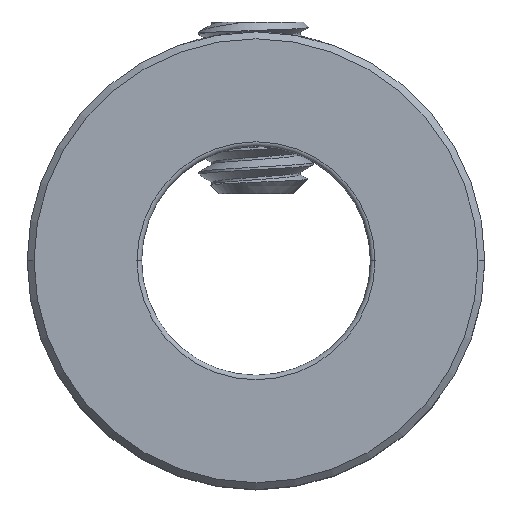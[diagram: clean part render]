
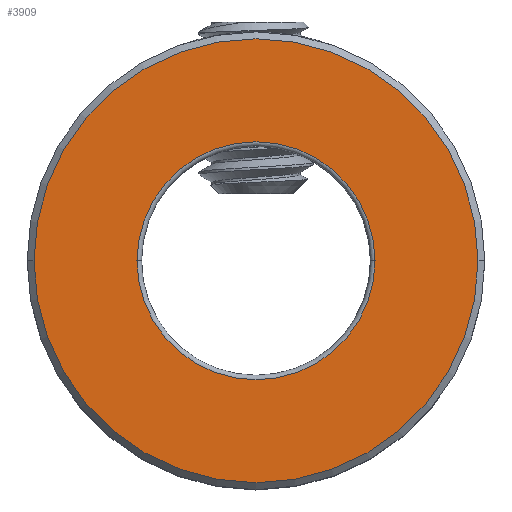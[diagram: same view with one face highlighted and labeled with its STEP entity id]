
A CAD part, top view. The second image highlights one B-rep face of the part: STEP entity #3909.
In plain terms, the highlighted planar face has unit normal (0, 0, 1).
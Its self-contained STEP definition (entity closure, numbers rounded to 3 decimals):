
#20 = DIRECTION ( 'NONE',  ( 0., 0., -1. ) ) ;
#55 = EDGE_LOOP ( 'NONE', ( #3405, #2956 ) ) ;
#248 = CARTESIAN_POINT ( 'NONE',  ( 7.76, 0., 4. ) ) ;
#256 = EDGE_CURVE ( 'NONE', #2200, #4123, #757, .T. ) ;
#357 = DIRECTION ( 'NONE',  ( 1., 0., 0. ) ) ;
#757 = CIRCLE ( 'NONE', #3699, 7.76 ) ;
#1063 = AXIS2_PLACEMENT_3D ( 'NONE', #4261, #1768, #2830 ) ;
#1085 = EDGE_CURVE ( 'NONE', #2602, #3573, #2783, .T. ) ;
#1182 = CARTESIAN_POINT ( 'NONE',  ( 0., 0., 4. ) ) ;
#1335 = EDGE_CURVE ( 'NONE', #4123, #2200, #4182, .T. ) ;
#1518 = DIRECTION ( 'NONE',  ( 1., 0., 0. ) ) ;
#1617 = CARTESIAN_POINT ( 'NONE',  ( 4.16, 0., 4. ) ) ;
#1698 = DIRECTION ( 'NONE',  ( 1., 0., 0. ) ) ;
#1768 = DIRECTION ( 'NONE',  ( 0., 0., 1. ) ) ;
#1969 = DIRECTION ( 'NONE',  ( 0., 0., 1. ) ) ;
#2126 = AXIS2_PLACEMENT_3D ( 'NONE', #3574, #20, #357 ) ;
#2200 = VERTEX_POINT ( 'NONE', #3487 ) ;
#2330 = CARTESIAN_POINT ( 'NONE',  ( 0., 0., 4. ) ) ;
#2382 = FACE_OUTER_BOUND ( 'NONE', #55, .T. ) ;
#2602 = VERTEX_POINT ( 'NONE', #3522 ) ;
#2621 = ORIENTED_EDGE ( 'NONE', *, *, #3370, .T. ) ;
#2783 = CIRCLE ( 'NONE', #4365, 4.16 ) ;
#2830 = DIRECTION ( 'NONE',  ( 1., 0., 0. ) ) ;
#2956 = ORIENTED_EDGE ( 'NONE', *, *, #1335, .T. ) ;
#3101 = DIRECTION ( 'NONE',  ( 1., 0., 0. ) ) ;
#3224 = FACE_BOUND ( 'NONE', #4521, .T. ) ;
#3370 = EDGE_CURVE ( 'NONE', #3573, #2602, #3896, .T. ) ;
#3405 = ORIENTED_EDGE ( 'NONE', *, *, #256, .T. ) ;
#3465 = ORIENTED_EDGE ( 'NONE', *, *, #1085, .T. ) ;
#3487 = CARTESIAN_POINT ( 'NONE',  ( -7.76, 0., 4. ) ) ;
#3522 = CARTESIAN_POINT ( 'NONE',  ( -4.16, 0., 4. ) ) ;
#3573 = VERTEX_POINT ( 'NONE', #1617 ) ;
#3574 = CARTESIAN_POINT ( 'NONE',  ( 0., 0., 4. ) ) ;
#3692 = DIRECTION ( 'NONE',  ( 0., 0., 1. ) ) ;
#3699 = AXIS2_PLACEMENT_3D ( 'NONE', #1182, #3692, #1518 ) ;
#3851 = CARTESIAN_POINT ( 'NONE',  ( 0., 0., 4. ) ) ;
#3896 = CIRCLE ( 'NONE', #2126, 4.16 ) ;
#3909 = ADVANCED_FACE ( 'NONE', ( #2382, #3224 ), #4530, .T. ) ;
#4123 = VERTEX_POINT ( 'NONE', #248 ) ;
#4182 = CIRCLE ( 'NONE', #1063, 7.76 ) ;
#4220 = AXIS2_PLACEMENT_3D ( 'NONE', #2330, #1969, #3101 ) ;
#4261 = CARTESIAN_POINT ( 'NONE',  ( 0., 0., 4. ) ) ;
#4365 = AXIS2_PLACEMENT_3D ( 'NONE', #3851, #4541, #1698 ) ;
#4521 = EDGE_LOOP ( 'NONE', ( #2621, #3465 ) ) ;
#4530 = PLANE ( 'NONE',  #4220 ) ;
#4541 = DIRECTION ( 'NONE',  ( 0., 0., -1. ) ) ;
